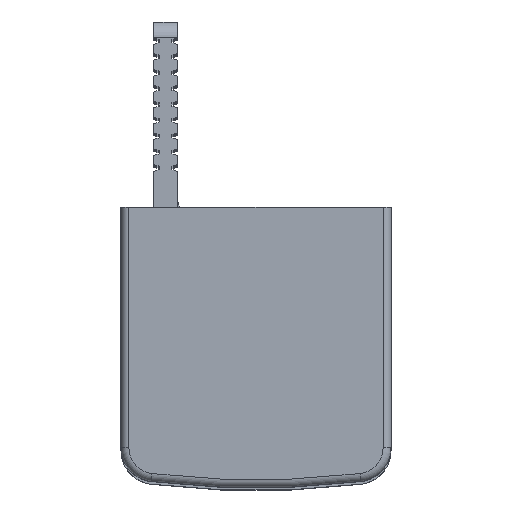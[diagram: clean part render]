
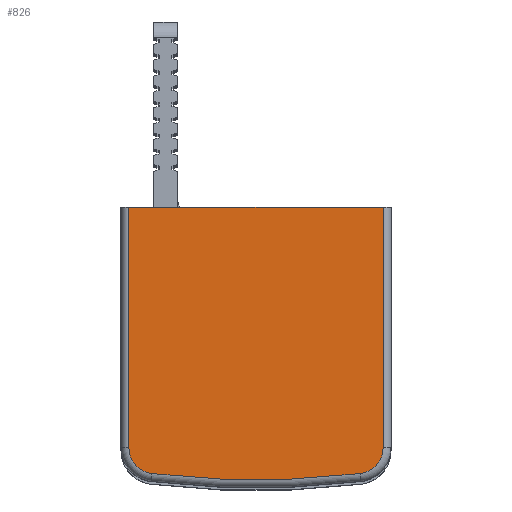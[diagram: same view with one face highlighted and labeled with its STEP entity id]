
A CAD part, top view. The second image highlights one B-rep face of the part: STEP entity #826.
In plain terms, the highlighted planar face has unit normal (0, 0, 1).
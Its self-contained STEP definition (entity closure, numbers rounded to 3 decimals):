
#391=CIRCLE('',#18882,1.65);
#392=CIRCLE('',#18883,55.151);
#393=CIRCLE('',#18884,1.65);
#826=ADVANCED_FACE('',(#2517),#1743,.T.);
#1743=PLANE('',#18885);
#2517=FACE_OUTER_BOUND('',#3447,.T.);
#3447=EDGE_LOOP('',(#5433,#5434,#5435,#5436,#5437,#5438));
#5433=ORIENTED_EDGE('',*,*,#11919,.F.);
#5434=ORIENTED_EDGE('',*,*,#11967,.T.);
#5435=ORIENTED_EDGE('',*,*,#11968,.F.);
#5436=ORIENTED_EDGE('',*,*,#11969,.T.);
#5437=ORIENTED_EDGE('',*,*,#11970,.F.);
#5438=ORIENTED_EDGE('',*,*,#11971,.T.);
#9975=VERTEX_POINT('',#26021);
#9976=VERTEX_POINT('',#26023);
#10005=VERTEX_POINT('',#26114);
#10006=VERTEX_POINT('',#26116);
#10007=VERTEX_POINT('',#26118);
#10008=VERTEX_POINT('',#26120);
#11919=EDGE_CURVE('',#9975,#9976,#14545,.T.);
#11967=EDGE_CURVE('',#9975,#10005,#14580,.T.);
#11968=EDGE_CURVE('',#10006,#10005,#391,.T.);
#11969=EDGE_CURVE('',#10006,#10007,#392,.T.);
#11970=EDGE_CURVE('',#10008,#10007,#393,.T.);
#11971=EDGE_CURVE('',#10008,#9976,#14581,.T.);
#14545=LINE('',#26022,#16870);
#14580=LINE('',#26113,#16905);
#14581=LINE('',#26121,#16906);
#16870=VECTOR('',#20937,1.);
#16905=VECTOR('',#21026,1.);
#16906=VECTOR('',#21033,1.);
#18882=AXIS2_PLACEMENT_3D('',#26115,#21027,#21028);
#18883=AXIS2_PLACEMENT_3D('',#26117,#21029,#21030);
#18884=AXIS2_PLACEMENT_3D('',#26119,#21031,#21032);
#18885=AXIS2_PLACEMENT_3D('',#26122,#21034,#21035);
#20937=DIRECTION('',(1.,0.,0.));
#21026=DIRECTION('',(0.,-1.,0.));
#21027=DIRECTION('',(0.,0.,-1.));
#21028=DIRECTION('',(1.,0.,0.));
#21029=DIRECTION('',(0.,0.,1.));
#21030=DIRECTION('',(1.,0.,0.));
#21031=DIRECTION('',(0.,0.,-1.));
#21032=DIRECTION('',(1.,0.,0.));
#21033=DIRECTION('',(0.,1.,0.));
#21034=DIRECTION('',(0.,0.,1.));
#21035=DIRECTION('',(-1.,0.,0.));
#26021=CARTESIAN_POINT('',(62.05,9.,499.));
#26022=CARTESIAN_POINT('',(62.75,9.,499.));
#26023=CARTESIAN_POINT('',(78.075,9.,499.));
#26113=CARTESIAN_POINT('',(62.05,16.75,499.));
#26114=CARTESIAN_POINT('',(62.05,-6.136,499.));
#26115=CARTESIAN_POINT('',(63.7,-6.136,499.));
#26116=CARTESIAN_POINT('',(63.504,-7.774,499.));
#26117=CARTESIAN_POINT('',(70.063,46.985,499.));
#26118=CARTESIAN_POINT('',(76.621,-7.774,499.));
#26119=CARTESIAN_POINT('',(76.425,-6.136,499.));
#26120=CARTESIAN_POINT('',(78.075,-6.136,499.));
#26121=CARTESIAN_POINT('',(78.075,16.75,499.));
#26122=CARTESIAN_POINT('',(67.175,16.75,499.));
